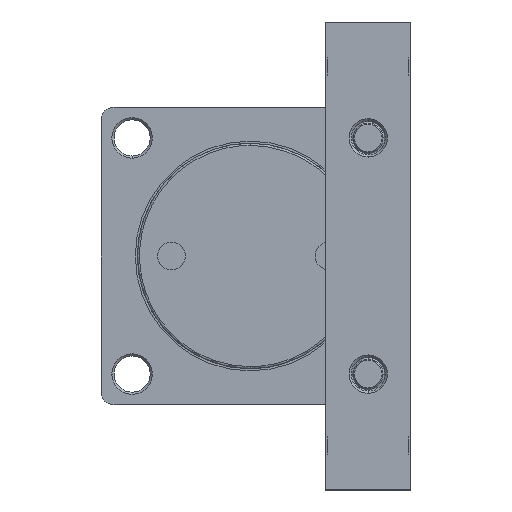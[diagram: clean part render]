
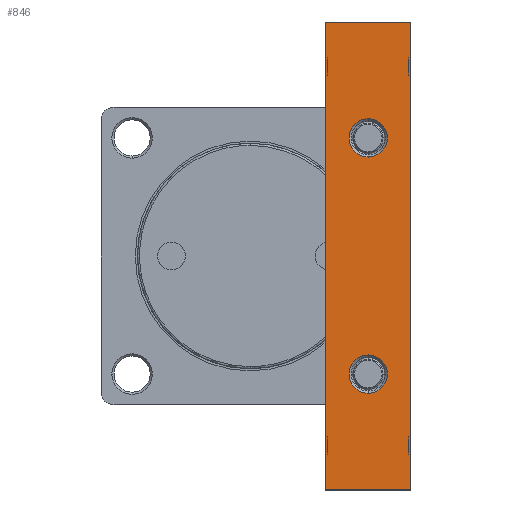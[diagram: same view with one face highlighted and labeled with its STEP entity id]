
A CAD part, left-side view. The second image highlights one B-rep face of the part: STEP entity #846.
In plain terms, the highlighted planar face has unit normal (1, 0, 0).
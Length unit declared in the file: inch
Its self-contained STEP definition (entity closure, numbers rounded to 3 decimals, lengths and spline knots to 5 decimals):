
#214 = ORIENTED_EDGE ( 'NONE', *, *, #11700, .T. ) ;
#312 = CARTESIAN_POINT ( 'NONE',  ( -2.61811, -1.39764, 4.33071 ) ) ;
#335 = DIRECTION ( 'NONE',  ( 0., 0., 1. ) ) ;
#351 = DIRECTION ( 'NONE',  ( 0., 0., 1. ) ) ;
#367 = DIRECTION ( 'NONE',  ( -1., 0., 0. ) ) ;
#377 = CARTESIAN_POINT ( 'NONE',  ( -2.61811, -2.18504, -2.18504 ) ) ;
#405 = VERTEX_POINT ( 'NONE', #5336 ) ;
#846 = ADVANCED_FACE ( 'NONE', ( #3894, #6483, #8925 ), #11877, .T. ) ;
#1586 = ORIENTED_EDGE ( 'NONE', *, *, #5391, .T. ) ;
#1906 = EDGE_CURVE ( 'NONE', #405, #5351, #4984, .T. ) ;
#1976 = EDGE_CURVE ( 'NONE', #11116, #8735, #5099, .T. ) ;
#2609 = ORIENTED_EDGE ( 'NONE', *, *, #11834, .T. ) ;
#2973 = DIRECTION ( 'NONE',  ( 0., 0., 1. ) ) ;
#2990 = DIRECTION ( 'NONE',  ( -1., 0., 0. ) ) ;
#3001 = CARTESIAN_POINT ( 'NONE',  ( -2.61811, -2.18504, 2.18504 ) ) ;
#3059 = LINE ( 'NONE', #4779, #3068 ) ;
#3068 = VECTOR ( 'NONE', #4698, 39.37008 ) ;
#3471 = AXIS2_PLACEMENT_3D ( 'NONE', #3001, #2990, #2973 ) ;
#3682 = VERTEX_POINT ( 'NONE', #5619 ) ;
#3747 = CARTESIAN_POINT ( 'NONE',  ( -2.61811, -2.18504, 1.83071 ) ) ;
#3894 = FACE_OUTER_BOUND ( 'NONE', #4818, .T. ) ;
#4311 = EDGE_LOOP ( 'NONE', ( #6066, #1586 ) ) ;
#4666 = VERTEX_POINT ( 'NONE', #6720 ) ;
#4698 = DIRECTION ( 'NONE',  ( 0., -1., 0. ) ) ;
#4779 = CARTESIAN_POINT ( 'NONE',  ( -2.61811, -2.97244, 4.33071 ) ) ;
#4818 = EDGE_LOOP ( 'NONE', ( #11684, #7021, #214, #2609 ) ) ;
#4984 = CIRCLE ( 'NONE', #12832, 0.35433 ) ;
#5053 = VECTOR ( 'NONE', #8295, 39.37008 ) ;
#5099 = LINE ( 'NONE', #312, #13054 ) ;
#5336 = CARTESIAN_POINT ( 'NONE',  ( -2.61811, -2.18504, -1.83071 ) ) ;
#5351 = VERTEX_POINT ( 'NONE', #10032 ) ;
#5359 = CARTESIAN_POINT ( 'NONE',  ( -2.61811, -2.97244, -4.33071 ) ) ;
#5391 = EDGE_CURVE ( 'NONE', #5351, #405, #11984, .T. ) ;
#5468 = VECTOR ( 'NONE', #7304, 39.37008 ) ;
#5494 = EDGE_CURVE ( 'NONE', #7180, #11781, #11641, .T. ) ;
#5533 = AXIS2_PLACEMENT_3D ( 'NONE', #11112, #11805, #11820 ) ;
#5619 = CARTESIAN_POINT ( 'NONE',  ( -2.61811, -2.97244, -4.33071 ) ) ;
#6066 = ORIENTED_EDGE ( 'NONE', *, *, #1906, .T. ) ;
#6219 = LINE ( 'NONE', #7336, #5468 ) ;
#6483 = FACE_BOUND ( 'NONE', #9925, .T. ) ;
#6720 = CARTESIAN_POINT ( 'NONE',  ( -2.61811, -2.97244, 4.33071 ) ) ;
#6819 = AXIS2_PLACEMENT_3D ( 'NONE', #9569, #9556, #9544 ) ;
#6924 = AXIS2_PLACEMENT_3D ( 'NONE', #9907, #9897, #9892 ) ;
#7021 = ORIENTED_EDGE ( 'NONE', *, *, #11414, .T. ) ;
#7180 = VERTEX_POINT ( 'NONE', #7877 ) ;
#7304 = DIRECTION ( 'NONE',  ( 0., 0., -1. ) ) ;
#7336 = CARTESIAN_POINT ( 'NONE',  ( -2.61811, -2.97244, 4.33071 ) ) ;
#7877 = CARTESIAN_POINT ( 'NONE',  ( -2.61811, -2.18504, 2.53937 ) ) ;
#8005 = ORIENTED_EDGE ( 'NONE', *, *, #11472, .T. ) ;
#8187 = LINE ( 'NONE', #5359, #5053 ) ;
#8295 = DIRECTION ( 'NONE',  ( 0., 1., 0. ) ) ;
#8735 = VERTEX_POINT ( 'NONE', #12263 ) ;
#8829 = CARTESIAN_POINT ( 'NONE',  ( -2.61811, -1.39764, -4.33071 ) ) ;
#8925 = FACE_BOUND ( 'NONE', #4311, .T. ) ;
#9544 = DIRECTION ( 'NONE',  ( 0., 0., 1. ) ) ;
#9556 = DIRECTION ( 'NONE',  ( -1., 0., 0. ) ) ;
#9569 = CARTESIAN_POINT ( 'NONE',  ( -2.61811, -2.18504, 2.18504 ) ) ;
#9892 = DIRECTION ( 'NONE',  ( 0., 0., 1. ) ) ;
#9897 = DIRECTION ( 'NONE',  ( -1., 0., 0. ) ) ;
#9907 = CARTESIAN_POINT ( 'NONE',  ( -2.61811, -2.18504, -2.18504 ) ) ;
#9925 = EDGE_LOOP ( 'NONE', ( #10389, #8005 ) ) ;
#10032 = CARTESIAN_POINT ( 'NONE',  ( -2.61811, -2.18504, -2.53937 ) ) ;
#10389 = ORIENTED_EDGE ( 'NONE', *, *, #5494, .T. ) ;
#11112 = CARTESIAN_POINT ( 'NONE',  ( -2.61811, -2.97244, 4.33071 ) ) ;
#11116 = VERTEX_POINT ( 'NONE', #8829 ) ;
#11414 = EDGE_CURVE ( 'NONE', #8735, #4666, #3059, .T. ) ;
#11472 = EDGE_CURVE ( 'NONE', #11781, #7180, #12929, .T. ) ;
#11641 = CIRCLE ( 'NONE', #6819, 0.35433 ) ;
#11684 = ORIENTED_EDGE ( 'NONE', *, *, #1976, .T. ) ;
#11700 = EDGE_CURVE ( 'NONE', #4666, #3682, #6219, .T. ) ;
#11781 = VERTEX_POINT ( 'NONE', #3747 ) ;
#11805 = DIRECTION ( 'NONE',  ( 1., 0., 0. ) ) ;
#11820 = DIRECTION ( 'NONE',  ( 0., 0., -1. ) ) ;
#11834 = EDGE_CURVE ( 'NONE', #3682, #11116, #8187, .T. ) ;
#11877 = PLANE ( 'NONE',  #5533 ) ;
#11984 = CIRCLE ( 'NONE', #6924, 0.35433 ) ;
#12263 = CARTESIAN_POINT ( 'NONE',  ( -2.61811, -1.39764, 4.33071 ) ) ;
#12832 = AXIS2_PLACEMENT_3D ( 'NONE', #377, #367, #351 ) ;
#12929 = CIRCLE ( 'NONE', #3471, 0.35433 ) ;
#13054 = VECTOR ( 'NONE', #335, 39.37008 ) ;
